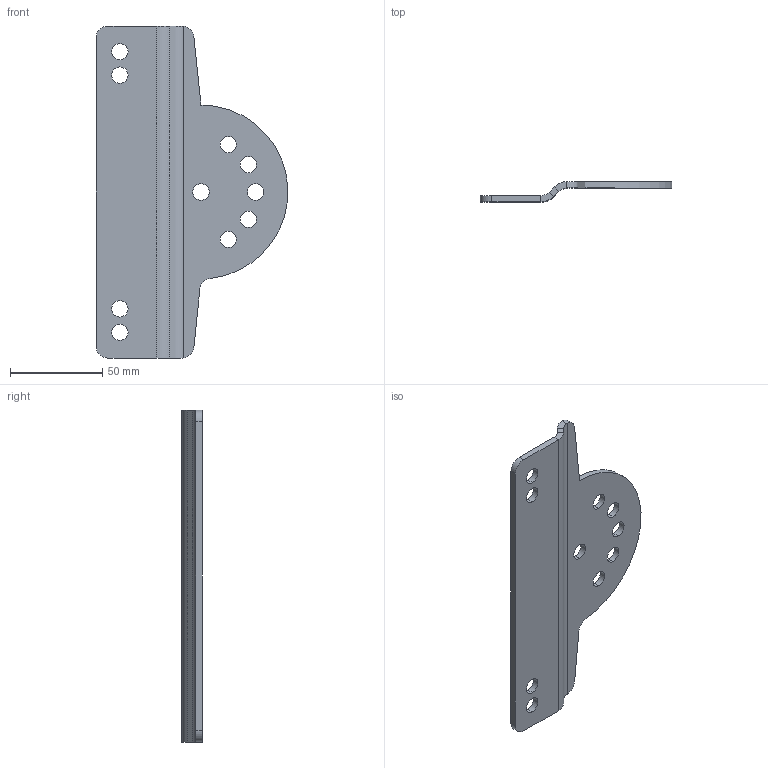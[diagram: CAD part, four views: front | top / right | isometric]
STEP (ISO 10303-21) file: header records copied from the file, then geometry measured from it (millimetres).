
FILE_DESCRIPTION (( 'STEP AP214' ), '1' );
FILE_NAME ('EPL-HB-150LED-RT Bracket.STEP', '2021-01-15T17:40:20', ( '' ), ( '' ), 'SwSTEP 2.0', 'SolidWorks 2020', '' );
FILE_SCHEMA (( 'AUTOMOTIVE_DESIGN' ));
Length unit declared in the file: inch
Products named in the file (1): EPL-HB-150LED-RT Bracket
Bounding box: 104.07 x 11.05 x 180.34 mm (x, y, z)
Volume: 45859.3 mm3; surface area: 29465.8 mm2
Topology: 1 solids, 1 shells, 47 faces, 123 edges, 78 vertices
Faces by surface type: cylinder 30, plane 17
Entity records: 1545 total; most frequent: DIRECTION 275, CARTESIAN_POINT 261, ORIENTED_EDGE 246, EDGE_CURVE 123, AXIS2_PLACEMENT_3D 108, VERTEX_POINT 78, EDGE_LOOP 67, CIRCLE 60
